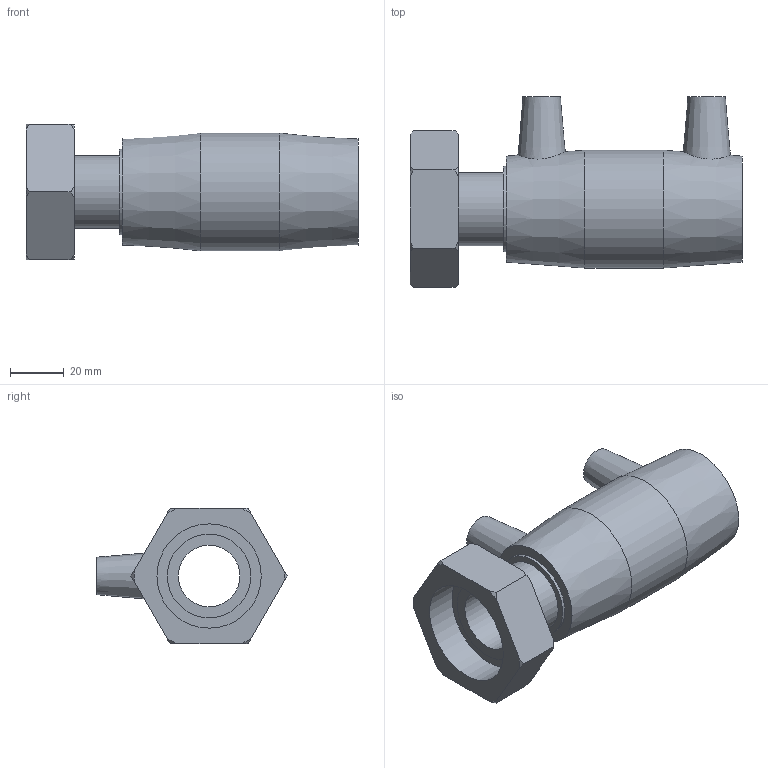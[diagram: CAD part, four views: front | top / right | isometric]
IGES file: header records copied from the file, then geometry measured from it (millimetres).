
Global section: file name: 494104032013.ipt; native system: Autodesk Inventor 2015; preprocessor: unknown; author: KIM; date: 20171106.094129; units: millimetre
Bounding box: 124 x 71.21 x 50.6 mm (x, y, z)
Volume: 105232 mm3; surface area: 36904.5 mm2
Topology: 1 solids, 2 shells, 54 faces, 128 edges, 88 vertices
Faces by surface type: plane 22, cone 16, revolution 9, cylinder 7
Full cylindrical faces by diameter (mm): 4 x2, 27.266 x1, 31.162 x1, 32 x2, 44 x1
